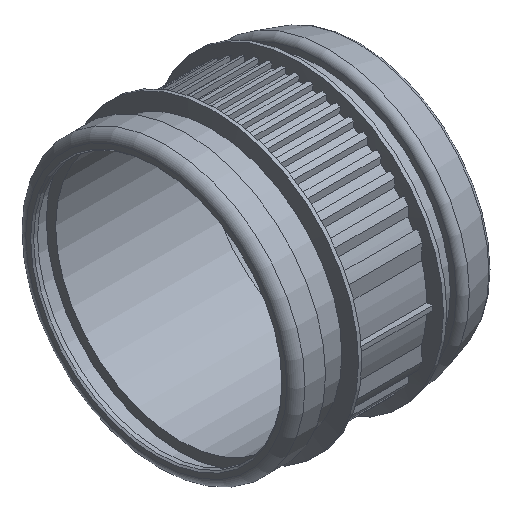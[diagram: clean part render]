
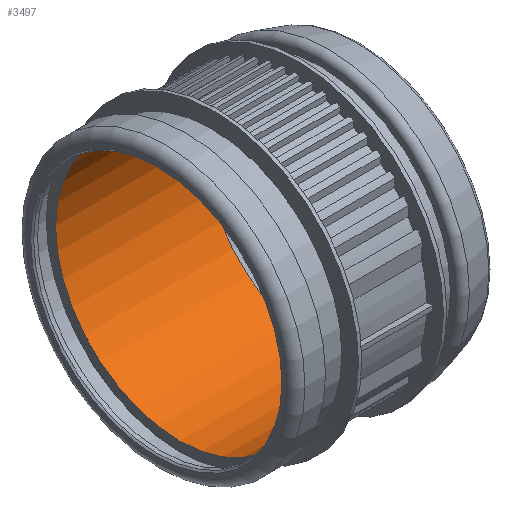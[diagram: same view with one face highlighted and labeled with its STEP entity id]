
A CAD part, isometric view. The second image highlights one B-rep face of the part: STEP entity #3497.
In plain terms, the highlighted cylindrical face has radius 81.9 mm (diameter 163.8 mm), a full revolution.
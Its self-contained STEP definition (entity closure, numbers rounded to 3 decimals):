
#18=FACE_BOUND($,#631,.T.);
#442=FACE_OUTER_BOUND($,#630,.T.);
#630=EDGE_LOOP($,(#2942));
#631=EDGE_LOOP($,(#2943));
#865=CIRCLE($,#3851,81.9);
#866=CIRCLE($,#3852,81.9);
#1532=VERTEX_POINT($,#6100);
#1533=VERTEX_POINT($,#6102);
#2038=EDGE_CURVE($,#1532,#1532,#865,.T.);
#2039=EDGE_CURVE($,#1533,#1533,#866,.T.);
#2942=ORIENTED_EDGE($,*,*,#2038,.F.);
#2943=ORIENTED_EDGE($,*,*,#2039,.T.);
#3139=CYLINDRICAL_SURFACE($,#3850,81.9);
#3497=ADVANCED_FACE($,(#442,#18),#3139,.F.);
#3850=AXIS2_PLACEMENT_3D($,#6099,#4689,#4690);
#3851=AXIS2_PLACEMENT_3D($,#6101,#4691,#4692);
#3852=AXIS2_PLACEMENT_3D($,#6103,#4693,#4694);
#4689=DIRECTION('center_axis',(1.,0.,0.));
#4690=DIRECTION('ref_axis',(0.,1.,0.));
#4691=DIRECTION('center_axis',(1.,0.,0.));
#4692=DIRECTION('ref_axis',(0.,1.,0.));
#4693=DIRECTION('center_axis',(1.,0.,0.));
#4694=DIRECTION('ref_axis',(0.,1.,0.));
#6099=CARTESIAN_POINT('Origin',(98.125,0.,0.));
#6100=CARTESIAN_POINT('',(15.5,81.9,0.));
#6101=CARTESIAN_POINT('Origin',(15.5,0.,0.));
#6102=CARTESIAN_POINT('',(113.25,81.9,0.));
#6103=CARTESIAN_POINT('Origin',(113.25,0.,0.));
